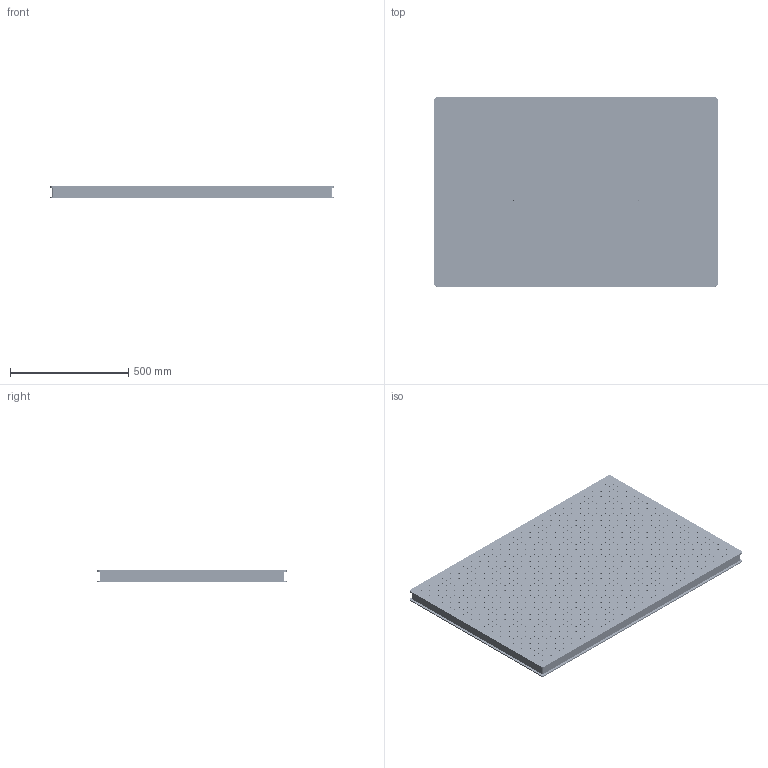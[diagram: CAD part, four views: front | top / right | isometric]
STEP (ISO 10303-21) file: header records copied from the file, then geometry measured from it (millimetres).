
FILE_DESCRIPTION (( 'STEP AP203' ), '1' );
FILE_NAME ('OTBB812-50 怢醱.STEP', '2019-05-09T08:46:45', ( 'User' ), ( 'User' ), 'SwSTEP 2.0', 'SolidWorks 2016', '' );
FILE_SCHEMA (( 'CONFIG_CONTROL_DESIGN' ));
Products named in the file (1): OTBB812-50 怢醱
Bounding box: 1200 x 800 x 50 mm (x, y, z)
Surface area: 4126485.1 mm2 (no closed solid volume)
Topology: 0 solids, 30 shells, 2830 faces, 8706 edges, 5908 vertices
Faces by surface type: cylinder 2772, plane 58
Entity records: 106220 total; most frequent: DIRECTION 19912, CARTESIAN_POINT 17445, ORIENTED_EDGE 17056, EDGE_CURVE 8706, AXIS2_PLACEMENT_3D 8375, VERTEX_POINT 5908, EDGE_LOOP 5590, CIRCLE 5544
